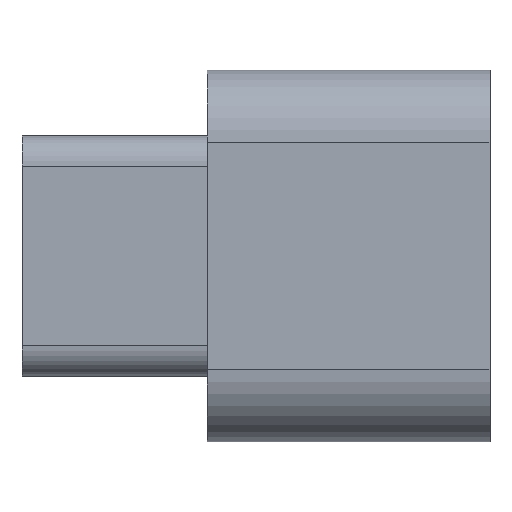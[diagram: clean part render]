
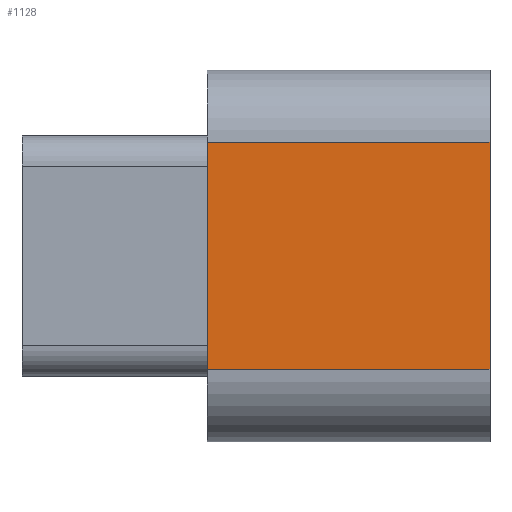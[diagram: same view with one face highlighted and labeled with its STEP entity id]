
A CAD part, top view. The second image highlights one B-rep face of the part: STEP entity #1128.
In plain terms, the highlighted planar face has unit normal (0, 0, 1).
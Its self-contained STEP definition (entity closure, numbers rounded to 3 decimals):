
#99 = PLANE('',#100);
#100 = AXIS2_PLACEMENT_3D('',#101,#102,#103);
#101 = CARTESIAN_POINT('',(36.227,-32.139,-4.74));
#102 = DIRECTION('',(1.,0.,0.));
#103 = DIRECTION('',(0.,1.,0.));
#530 = VERTEX_POINT('',#531);
#531 = CARTESIAN_POINT('',(36.227,-28.214,-1.24));
#546 = CYLINDRICAL_SURFACE('',#547,2.5);
#547 = AXIS2_PLACEMENT_3D('',#548,#549,#550);
#548 = CARTESIAN_POINT('',(36.227,-28.214,-3.74));
#549 = DIRECTION('',(-1.,-0.,-0.));
#550 = DIRECTION('',(0.,1.,0.));
#558 = EDGE_CURVE('',#559,#530,#561,.T.);
#559 = VERTEX_POINT('',#560);
#560 = CARTESIAN_POINT('',(36.227,-36.064,-1.24));
#561 = SURFACE_CURVE('',#562,(#566,#573),.PCURVE_S1.);
#562 = LINE('',#563,#564);
#563 = CARTESIAN_POINT('',(36.227,-32.139,-1.24));
#564 = VECTOR('',#565,1.);
#565 = DIRECTION('',(0.,1.,0.));
#566 = PCURVE('',#99,#567);
#567 = DEFINITIONAL_REPRESENTATION('',(#568),#572);
#568 = LINE('',#569,#570);
#569 = CARTESIAN_POINT('',(0.,3.5));
#570 = VECTOR('',#571,1.);
#571 = DIRECTION('',(1.,0.));
#572 = ( GEOMETRIC_REPRESENTATION_CONTEXT(2) 
PARAMETRIC_REPRESENTATION_CONTEXT() REPRESENTATION_CONTEXT('2D SPACE',''
  ) );
#573 = PCURVE('',#574,#579);
#574 = PLANE('',#575);
#575 = AXIS2_PLACEMENT_3D('',#576,#577,#578);
#576 = CARTESIAN_POINT('',(36.227,-36.064,-1.24));
#577 = DIRECTION('',(0.,0.,1.));
#578 = DIRECTION('',(0.,1.,0.));
#579 = DEFINITIONAL_REPRESENTATION('',(#580),#584);
#580 = LINE('',#581,#582);
#581 = CARTESIAN_POINT('',(3.925,0.));
#582 = VECTOR('',#583,1.);
#583 = DIRECTION('',(1.,0.));
#584 = ( GEOMETRIC_REPRESENTATION_CONTEXT(2) 
PARAMETRIC_REPRESENTATION_CONTEXT() REPRESENTATION_CONTEXT('2D SPACE',''
  ) );
#601 = CYLINDRICAL_SURFACE('',#602,2.5);
#602 = AXIS2_PLACEMENT_3D('',#603,#604,#605);
#603 = CARTESIAN_POINT('',(36.227,-36.064,-3.74));
#604 = DIRECTION('',(-1.,-0.,-0.));
#605 = DIRECTION('',(0.,1.,0.));
#946 = PLANE('',#947);
#947 = AXIS2_PLACEMENT_3D('',#948,#949,#950);
#948 = CARTESIAN_POINT('',(46.,-32.139,-4.74));
#949 = DIRECTION('',(1.,0.,0.));
#950 = DIRECTION('',(0.,1.,0.));
#1033 = EDGE_CURVE('',#559,#1034,#1036,.T.);
#1034 = VERTEX_POINT('',#1035);
#1035 = CARTESIAN_POINT('',(46.,-36.064,-1.24));
#1036 = SURFACE_CURVE('',#1037,(#1041,#1048),.PCURVE_S1.);
#1037 = LINE('',#1038,#1039);
#1038 = CARTESIAN_POINT('',(36.227,-36.064,-1.24)
  );
#1039 = VECTOR('',#1040,1.);
#1040 = DIRECTION('',(1.,0.,0.));
#1041 = PCURVE('',#601,#1042);
#1042 = DEFINITIONAL_REPRESENTATION('',(#1043),#1047);
#1043 = LINE('',#1044,#1045);
#1044 = CARTESIAN_POINT('',(-1.571,0.));
#1045 = VECTOR('',#1046,1.);
#1046 = DIRECTION('',(-0.,-1.));
#1047 = ( GEOMETRIC_REPRESENTATION_CONTEXT(2) 
PARAMETRIC_REPRESENTATION_CONTEXT() REPRESENTATION_CONTEXT('2D SPACE',''
  ) );
#1048 = PCURVE('',#574,#1049);
#1049 = DEFINITIONAL_REPRESENTATION('',(#1050),#1054);
#1050 = LINE('',#1051,#1052);
#1051 = CARTESIAN_POINT('',(0.,0.));
#1052 = VECTOR('',#1053,1.);
#1053 = DIRECTION('',(0.,-1.));
#1054 = ( GEOMETRIC_REPRESENTATION_CONTEXT(2) 
PARAMETRIC_REPRESENTATION_CONTEXT() REPRESENTATION_CONTEXT('2D SPACE',''
  ) );
#1128 = ADVANCED_FACE('',(#1129),#574,.T.);
#1129 = FACE_BOUND('',#1130,.T.);
#1130 = EDGE_LOOP('',(#1131,#1132,#1155,#1176));
#1131 = ORIENTED_EDGE('',*,*,#1033,.T.);
#1132 = ORIENTED_EDGE('',*,*,#1133,.T.);
#1133 = EDGE_CURVE('',#1034,#1134,#1136,.T.);
#1134 = VERTEX_POINT('',#1135);
#1135 = CARTESIAN_POINT('',(46.,-28.214,-1.24));
#1136 = SURFACE_CURVE('',#1137,(#1141,#1148),.PCURVE_S1.);
#1137 = LINE('',#1138,#1139);
#1138 = CARTESIAN_POINT('',(46.,-32.139,-1.24));
#1139 = VECTOR('',#1140,1.);
#1140 = DIRECTION('',(0.,1.,0.));
#1141 = PCURVE('',#574,#1142);
#1142 = DEFINITIONAL_REPRESENTATION('',(#1143),#1147);
#1143 = LINE('',#1144,#1145);
#1144 = CARTESIAN_POINT('',(3.925,-9.773));
#1145 = VECTOR('',#1146,1.);
#1146 = DIRECTION('',(1.,0.));
#1147 = ( GEOMETRIC_REPRESENTATION_CONTEXT(2) 
PARAMETRIC_REPRESENTATION_CONTEXT() REPRESENTATION_CONTEXT('2D SPACE',''
  ) );
#1148 = PCURVE('',#946,#1149);
#1149 = DEFINITIONAL_REPRESENTATION('',(#1150),#1154);
#1150 = LINE('',#1151,#1152);
#1151 = CARTESIAN_POINT('',(0.,3.5));
#1152 = VECTOR('',#1153,1.);
#1153 = DIRECTION('',(1.,0.));
#1154 = ( GEOMETRIC_REPRESENTATION_CONTEXT(2) 
PARAMETRIC_REPRESENTATION_CONTEXT() REPRESENTATION_CONTEXT('2D SPACE',''
  ) );
#1155 = ORIENTED_EDGE('',*,*,#1156,.F.);
#1156 = EDGE_CURVE('',#530,#1134,#1157,.T.);
#1157 = SURFACE_CURVE('',#1158,(#1162,#1169),.PCURVE_S1.);
#1158 = LINE('',#1159,#1160);
#1159 = CARTESIAN_POINT('',(36.227,-28.214,-1.24)
  );
#1160 = VECTOR('',#1161,1.);
#1161 = DIRECTION('',(1.,0.,0.));
#1162 = PCURVE('',#574,#1163);
#1163 = DEFINITIONAL_REPRESENTATION('',(#1164),#1168);
#1164 = LINE('',#1165,#1166);
#1165 = CARTESIAN_POINT('',(7.85,0.));
#1166 = VECTOR('',#1167,1.);
#1167 = DIRECTION('',(0.,-1.));
#1168 = ( GEOMETRIC_REPRESENTATION_CONTEXT(2) 
PARAMETRIC_REPRESENTATION_CONTEXT() REPRESENTATION_CONTEXT('2D SPACE',''
  ) );
#1169 = PCURVE('',#546,#1170);
#1170 = DEFINITIONAL_REPRESENTATION('',(#1171),#1175);
#1171 = LINE('',#1172,#1173);
#1172 = CARTESIAN_POINT('',(-1.571,0.));
#1173 = VECTOR('',#1174,1.);
#1174 = DIRECTION('',(-0.,-1.));
#1175 = ( GEOMETRIC_REPRESENTATION_CONTEXT(2) 
PARAMETRIC_REPRESENTATION_CONTEXT() REPRESENTATION_CONTEXT('2D SPACE',''
  ) );
#1176 = ORIENTED_EDGE('',*,*,#558,.F.);
